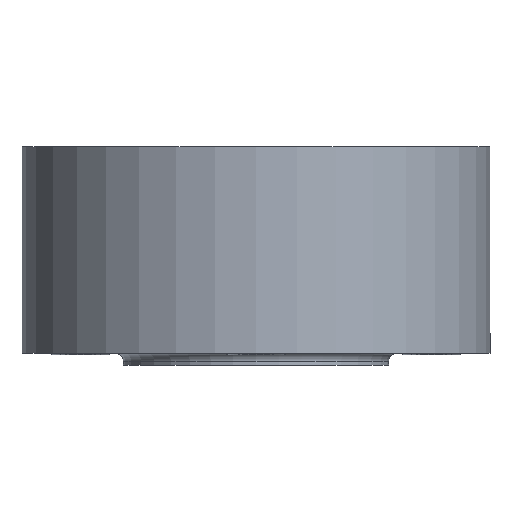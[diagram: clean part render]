
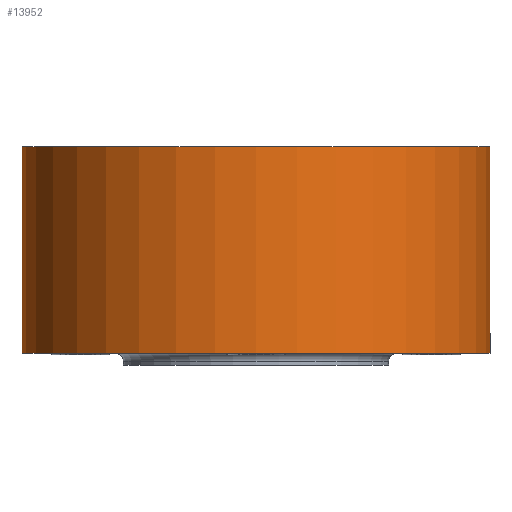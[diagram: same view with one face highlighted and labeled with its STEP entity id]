
A CAD part, front view. The second image highlights one B-rep face of the part: STEP entity #13952.
In plain terms, the highlighted cylindrical face has radius 90 mm (diameter 180 mm), a full revolution.
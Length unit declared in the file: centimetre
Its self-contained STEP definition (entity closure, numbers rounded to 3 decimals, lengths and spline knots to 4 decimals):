
#4752=FACE_BOUND('',#6257,.T.);
#5469=FACE_OUTER_BOUND('',#6256,.T.);
#6256=EDGE_LOOP('',(#13201));
#6257=EDGE_LOOP('',(#13202));
#6311=CIRCLE('',#14455,9.);
#6321=CIRCLE('',#14475,9.);
#7578=VERTEX_POINT('',#23581);
#7588=VERTEX_POINT('',#23611);
#9461=EDGE_CURVE('',#7578,#7578,#6311,.T.);
#9471=EDGE_CURVE('',#7588,#7588,#6321,.T.);
#13201=ORIENTED_EDGE('',*,*,#9471,.T.);
#13202=ORIENTED_EDGE('',*,*,#9461,.F.);
#13247=CYLINDRICAL_SURFACE('',#14474,9.);
#13952=ADVANCED_FACE('',(#5469,#4752),#13247,.T.);
#14455=AXIS2_PLACEMENT_3D('',#23582,#16887,#16888);
#14474=AXIS2_PLACEMENT_3D('',#23610,#16925,#16926);
#14475=AXIS2_PLACEMENT_3D('',#23612,#16927,#16928);
#16887=DIRECTION('center_axis',(0.,0.,
1.));
#16888=DIRECTION('ref_axis',(-1.,0.,0.));
#16925=DIRECTION('center_axis',(0.,0.,
1.));
#16926=DIRECTION('ref_axis',(-1.,0.,0.));
#16927=DIRECTION('center_axis',(0.,0.,1.));
#16928=DIRECTION('ref_axis',(-1.,0.,0.));
#23581=CARTESIAN_POINT('',(9.,0.,6.4));
#23582=CARTESIAN_POINT('Origin',(0.,0.,
6.4));
#23610=CARTESIAN_POINT('Origin',(0.,0.,
4.4));
#23611=CARTESIAN_POINT('',(-9.,0.,-1.55));
#23612=CARTESIAN_POINT('Origin',(0.,0.,-1.55));
